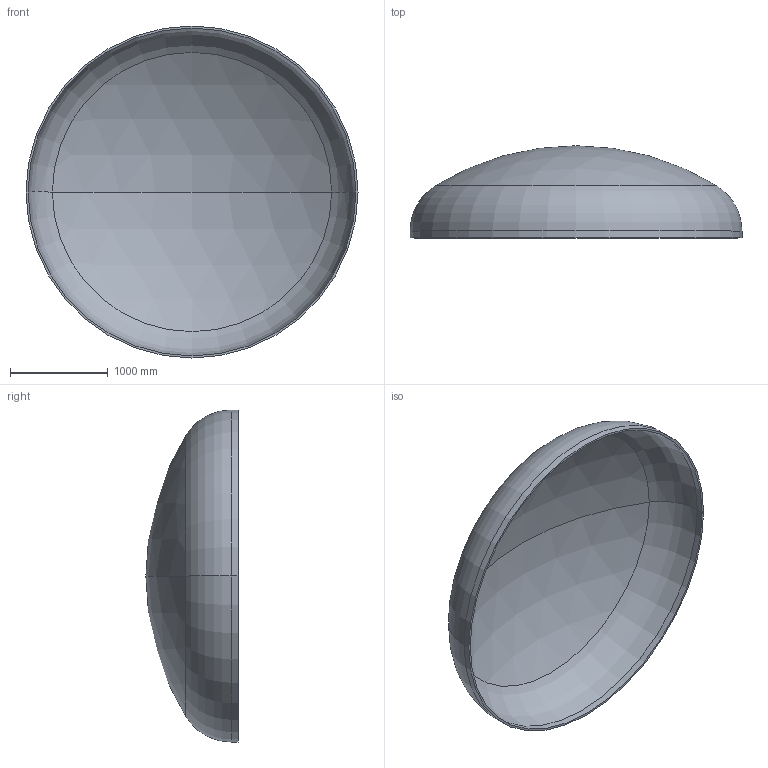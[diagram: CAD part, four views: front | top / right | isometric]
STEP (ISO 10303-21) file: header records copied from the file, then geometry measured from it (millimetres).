
FILE_DESCRIPTION (( 'STEP AP203' ), '1' );
FILE_NAME ('DIN 28013 Korbbogenform_-_Boden DIN 28013 - 3400 x 70 - I - s=21.step', '2016-07-01T19:16:51', ( '' ), ( '' ), 'SwSTEP 2.0', 'SolidWorks 2013', '' );
FILE_SCHEMA (( 'CONFIG_CONTROL_DESIGN' ));
Length unit declared in the file: millimetre
Products named in the file (1): DIN 28013 Korbbogenform_-_Boden DIN 28013 - 3400 x 70 - I - s=21
Bounding box: 3400 x 943.83 x 3400 mm (x, y, z)
Volume: 277665024.7 mm3; surface area: 26668125.7 mm2
Topology: 1 solids, 1 shells, 13 faces, 24 edges, 14 vertices
Faces by surface type: torus 4, cylinder 4, sphere 4, plane 1
Entity records: 407 total; most frequent: DIRECTION 72, CARTESIAN_POINT 52, ORIENTED_EDGE 48, AXIS2_PLACEMENT_3D 34, EDGE_CURVE 24, CIRCLE 20, EDGE_LOOP 14, VERTEX_POINT 14
